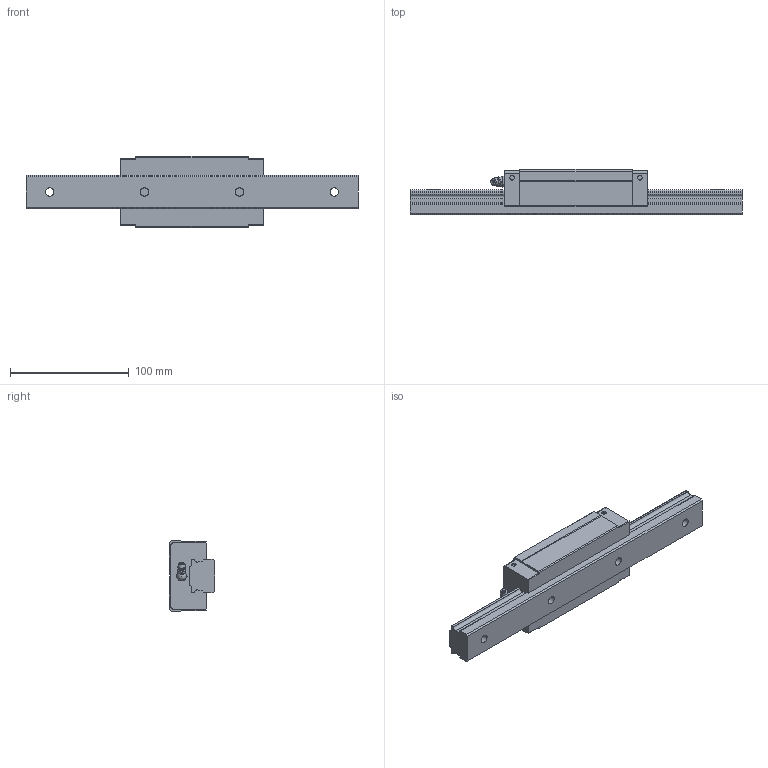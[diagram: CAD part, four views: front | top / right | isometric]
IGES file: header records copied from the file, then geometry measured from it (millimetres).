
Start section: Data from Parasolid IGES Translator 26.0.171, Copyright(c) 2006 Siemens PLM Software. All Rights Reserved.
Global section: file name: SVS30LR1SS-280L_G20_0_B-M6F_79-75_0_0_0_1.igs; native system: By Siemens PLM Incorporated; preprocessor: XPlus GENERIC/IGES 26.0.171; author: Noname; organization: Noname; date: 20240516.115706; units: millimetre
Bounding box: 280 x 38 x 60 mm (x, y, z)
Surface area: 61200.9 mm2 (no closed solid volume)
Topology: 0 solids, 0 shells, 183 faces, 1006 edges, 972 vertices
Faces by surface type: extrusion 92, revolution 91
